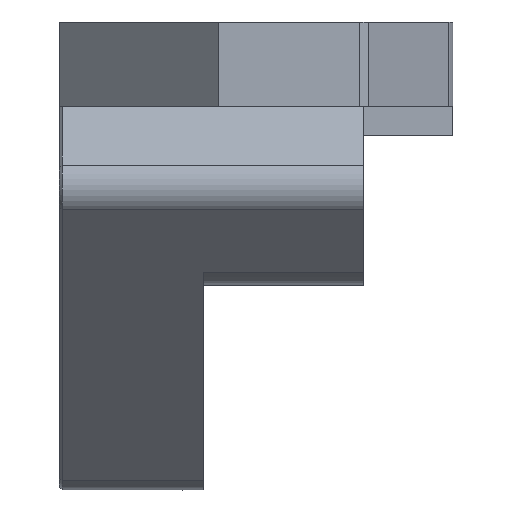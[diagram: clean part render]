
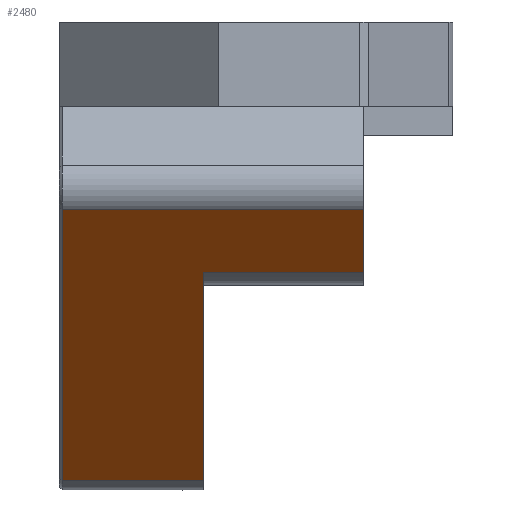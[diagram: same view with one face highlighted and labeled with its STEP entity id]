
A CAD part, left-side view. The second image highlights one B-rep face of the part: STEP entity #2480.
In plain terms, the highlighted planar face has unit normal (-0.707, 0, -0.707).
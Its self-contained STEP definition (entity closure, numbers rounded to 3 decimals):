
#221=PLANE('',#2675);
#274=LINE('',#4603,#479);
#291=LINE('',#4647,#496);
#395=LINE('',#5464,#600);
#420=LINE('',#5775,#625);
#421=LINE('',#5778,#626);
#422=LINE('',#5779,#627);
#479=VECTOR('',#2834,10.);
#496=VECTOR('',#2873,10.);
#600=VECTOR('',#3181,10.);
#625=VECTOR('',#3244,10.);
#626=VECTOR('',#3247,10.);
#627=VECTOR('',#3248,10.);
#753=FACE_OUTER_BOUND('',#898,.T.);
#898=EDGE_LOOP('',(#2288,#2289,#2290,#2291,#2292,#2293));
#1084=VERTEX_POINT('',#4601);
#1085=VERTEX_POINT('',#4602);
#1101=VERTEX_POINT('',#4645);
#1198=VERTEX_POINT('',#5463);
#1222=VERTEX_POINT('',#5773);
#1223=VERTEX_POINT('',#5777);
#1355=EDGE_CURVE('',#1084,#1085,#274,.T.);
#1377=EDGE_CURVE('',#1101,#1084,#291,.T.);
#1543=EDGE_CURVE('',#1198,#1085,#395,.T.);
#1582=EDGE_CURVE('',#1198,#1222,#420,.T.);
#1583=EDGE_CURVE('',#1222,#1223,#421,.T.);
#1584=EDGE_CURVE('',#1223,#1101,#422,.T.);
#2288=ORIENTED_EDGE('',*,*,#1583,.F.);
#2289=ORIENTED_EDGE('',*,*,#1582,.F.);
#2290=ORIENTED_EDGE('',*,*,#1543,.T.);
#2291=ORIENTED_EDGE('',*,*,#1355,.F.);
#2292=ORIENTED_EDGE('',*,*,#1377,.F.);
#2293=ORIENTED_EDGE('',*,*,#1584,.F.);
#2480=ADVANCED_FACE('',(#753),#221,.T.);
#2675=AXIS2_PLACEMENT_3D('',#5776,#3245,#3246);
#2834=DIRECTION('',(0.,1.,0.));
#2873=DIRECTION('',(0.707,0.,-0.707));
#3181=DIRECTION('',(-0.707,0.,0.707));
#3244=DIRECTION('',(0.,1.,0.));
#3245=DIRECTION('center_axis',(-0.707,0.,
-0.707));
#3246=DIRECTION('ref_axis',(0.707,0.,-0.707));
#3247=DIRECTION('',(-0.707,0.,0.707));
#3248=DIRECTION('',(0.,-1.,0.));
#4601=CARTESIAN_POINT('',(8.775,31.62,12.237));
#4602=CARTESIAN_POINT('',(8.775,42.458,12.237));
#4603=CARTESIAN_POINT('',(8.775,46.636,12.237));
#4645=CARTESIAN_POINT('',(4.55,31.62,16.462));
#4647=CARTESIAN_POINT('',(10.867,31.62,10.145));
#5463=CARTESIAN_POINT('',(22.898,42.458,-1.887));
#5464=CARTESIAN_POINT('',(6.651,42.458,14.36));
#5773=CARTESIAN_POINT('',(22.898,52.008,-1.887));
#5775=CARTESIAN_POINT('',(22.898,50.261,-1.887));
#5776=CARTESIAN_POINT('Origin',(4.55,51.908,16.462));
#5777=CARTESIAN_POINT('',(4.55,52.008,16.462));
#5778=CARTESIAN_POINT('',(10.867,52.008,10.145));
#5779=CARTESIAN_POINT('',(4.55,40.858,16.462));
